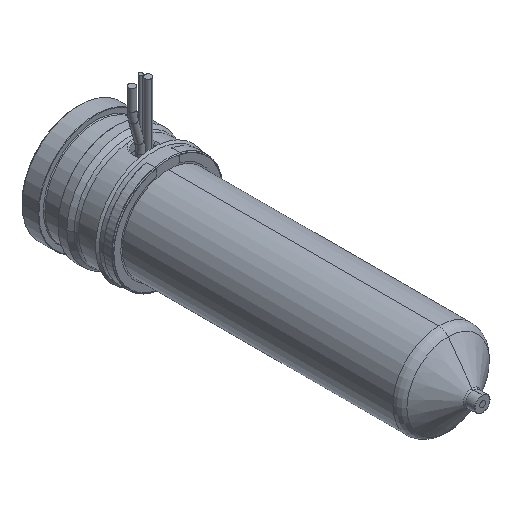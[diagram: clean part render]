
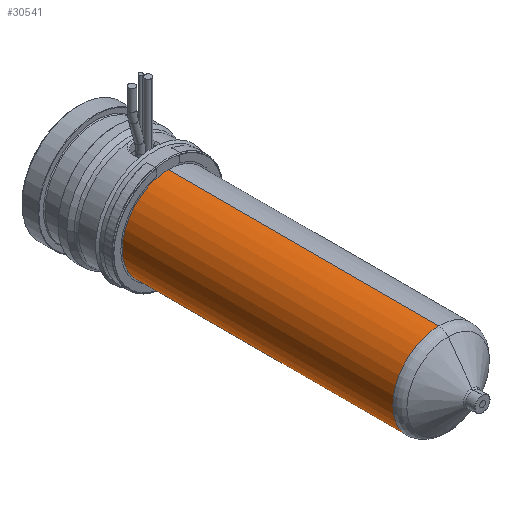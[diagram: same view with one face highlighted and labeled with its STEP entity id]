
A CAD part, isometric view. The second image highlights one B-rep face of the part: STEP entity #30541.
In plain terms, the highlighted cylindrical face has radius 12 mm (diameter 24 mm), a partial arc.
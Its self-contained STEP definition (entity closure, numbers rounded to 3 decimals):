
#30186=CARTESIAN_POINT('',(0.,-24.,0.));
#30187=DIRECTION('',(0.,1.,0.));
#30188=DIRECTION('',(0.,0.,-1.));
#30189=AXIS2_PLACEMENT_3D('',#30186,#30187,#30188);
#30194=DIRECTION('',(0.,1.,0.));
#30195=VECTOR('',#30194,70.671);
#30196=CARTESIAN_POINT('',(0.,-94.671,12.));
#30197=LINE('',#30196,#30195);
#30209=DIRECTION('',(0.,1.,0.));
#30210=VECTOR('',#30209,70.671);
#30211=CARTESIAN_POINT('',(0.,-94.671,-12.));
#30212=LINE('',#30211,#30210);
#30240=CARTESIAN_POINT('',(0.,-94.671,0.));
#30241=DIRECTION('',(0.,-1.,0.));
#30242=DIRECTION('',(0.,0.,1.));
#30243=AXIS2_PLACEMENT_3D('',#30240,#30241,#30242);
#30430=CARTESIAN_POINT('',(0.,-94.671,12.));
#30431=CARTESIAN_POINT('',(0.,-24.,12.));
#30432=VERTEX_POINT('',#30430);
#30433=VERTEX_POINT('',#30431);
#30438=CARTESIAN_POINT('',(0.,-94.671,-12.));
#30439=CARTESIAN_POINT('',(0.,-24.,-12.));
#30440=VERTEX_POINT('',#30438);
#30441=VERTEX_POINT('',#30439);
#30527=CARTESIAN_POINT('',(0.,-15.7,0.));
#30528=DIRECTION('',(0.,-1.,0.));
#30529=DIRECTION('',(0.,0.,1.));
#30530=AXIS2_PLACEMENT_3D('',#30527,#30528,#30529);
#30531=CYLINDRICAL_SURFACE('',#30530,12.);
#30533=ORIENTED_EDGE('',*,*,#30532,.F.);
#30535=ORIENTED_EDGE('',*,*,#30534,.T.);
#30537=ORIENTED_EDGE('',*,*,#30536,.T.);
#30538=ORIENTED_EDGE('',*,*,#30520,.T.);
#30539=EDGE_LOOP('',(#30533,#30535,#30537,#30538));
#30540=FACE_OUTER_BOUND('',#30539,.F.);
#30541=ADVANCED_FACE('',(#30540),#30531,.T.);
#30190=CIRCLE('',#30189,12.);
#30244=CIRCLE('',#30243,12.);
#30520=EDGE_CURVE('',#30441,#30433,#30190,.T.);
#30532=EDGE_CURVE('',#30432,#30433,#30197,.T.);
#30534=EDGE_CURVE('',#30432,#30440,#30244,.T.);
#30536=EDGE_CURVE('',#30440,#30441,#30212,.T.);
